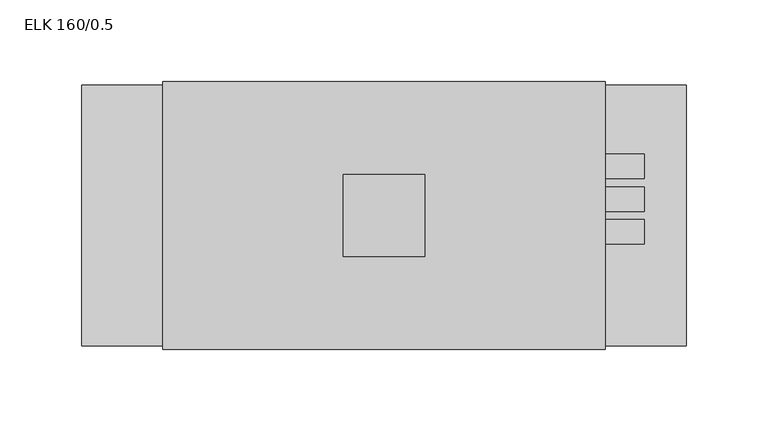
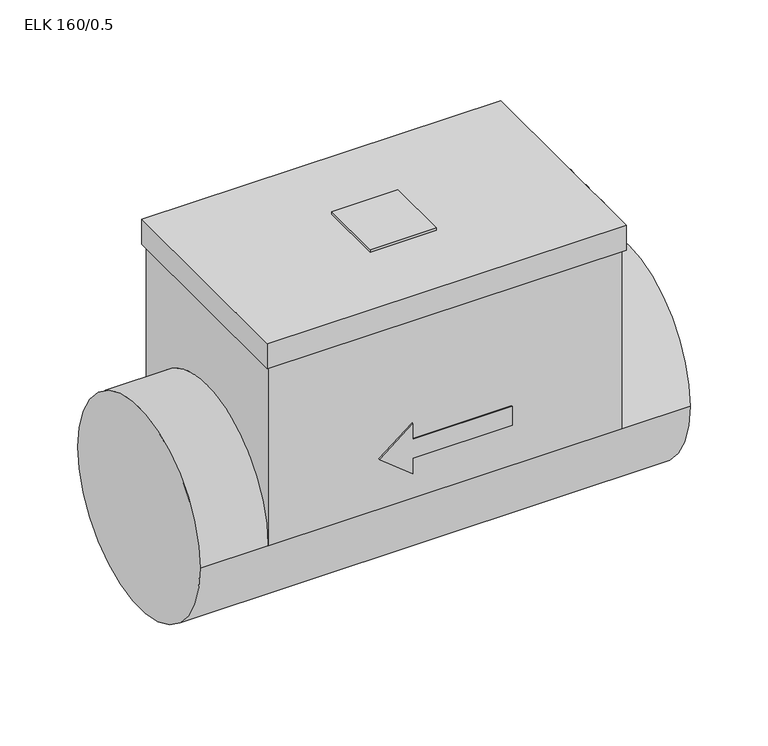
"""IFC4 building model written with IfcOpenShell, lengths in millimetres: proxy geometry, KORF_Нагреватель_Электрический_Круглый_ELK : ELK 160/0.5."""

from ifc_helpers import new_model, si_unit, point, frame, frame_2d, origin, place, context, project, spatial, polyline, circle_curve, trimmed, segment, composite_curve, outline, extrude, source, transform, mapped, element, save
from ifc_brep_helpers import plane_surface, cylinder_surface, advanced_brep


def elk_160_0_5_c7671d57(model_context):
    return source(origin(), model_context, "Body", "SolidModel", [
        extrude(outline(polyline([(210.0, 25.0), (210.0, -25.0), (160.0, -25.0), (160.0, 25.0), (210.0, 25.0)])), frame((0.0, 0.0, 163.0), z_axis=(0.0, 0.0, 1.0), x_axis=(1.0, 0.0, 0.0)), (0.0, 0.0, 1.0), 2.0),
        extrude(outline(composite_curve([segment(trimmed(circle_curve(frame_2d((-10.0, 123.0)), 7.5), [point((-17.5, 123.0))], [point((-2.5, 123.0))], False, "CARTESIAN"), True, "CONTINUOUS"), segment(trimmed(circle_curve(frame_2d((-10.0, 123.0)), 7.5), [point((-2.5, 123.0))], [point((-17.5, 123.0))], False, "CARTESIAN"), True, "CONTINUOUS")], self_intersect=False)), frame((318.5, 0.0, 0.0), z_axis=(1.0, 0.0, 0.0), x_axis=(0.0, 1.0, 0.0)), (0.0, 0.0, 1.0), 25.75),
        extrude(outline(composite_curve([segment(trimmed(circle_curve(frame_2d((10.0, 123.0)), 7.5), [point((2.5, 123.0))], [point((17.5, 123.0))], False, "CARTESIAN"), True, "CONTINUOUS"), segment(trimmed(circle_curve(frame_2d((10.0, 123.0)), 7.5), [point((17.5, 123.0))], [point((2.5, 123.0))], False, "CARTESIAN"), True, "CONTINUOUS")], self_intersect=False)), frame((318.5, 0.0, 0.0), z_axis=(1.0, 0.0, 0.0), x_axis=(0.0, 1.0, 0.0)), (0.0, 0.0, 1.0), 25.75),
        extrude(outline(composite_curve([segment(trimmed(circle_curve(frame_2d((30.0, 123.0)), 7.5), [point((22.5, 123.0))], [point((37.5, 123.0))], False, "CARTESIAN"), True, "CONTINUOUS"), segment(trimmed(circle_curve(frame_2d((30.0, 123.0)), 7.5), [point((37.5, 123.0))], [point((22.5, 123.0))], False, "CARTESIAN"), True, "CONTINUOUS")], self_intersect=False)), frame((318.5, 0.0, 0.0), z_axis=(1.0, 0.0, 0.0), x_axis=(0.0, 1.0, 0.0)), (0.0, 0.0, 1.0), 25.75),
        advanced_brep(
        [(320.5, 82.0, 143.0), (320.5, -82.0, 143.0), (49.5, -82.0, 143.0), (49.5, 82.0, 143.0), (318.5, 80.0, 143.0), (51.5, 80.0, 143.0), (51.5, -80.0, 143.0), (318.5, -80.0, 143.0), (320.5, 82.0, 163.0), (49.5, 82.0, 163.0), (49.5, -82.0, 163.0), (320.5, -82.0, 163.0), (318.5, 80.0, 0.0), (51.5, 80.0, 0.0), (160.0, 80.0, 60.0), (135.0, 80.0, 40.0), (160.0, 80.0, 20.0), (160.0, 80.0, 32.5), (235.0, 80.0, 32.5), (235.0, 80.0, 47.5), (160.0, 80.0, 47.5), (51.5, -80.0, 0.0), (318.5, -80.0, 0.0), (135.0, -80.0, 40.0), (160.0, -80.0, 60.0), (160.0, -80.0, 47.5), (235.0, -80.0, 47.5), (235.0, -80.0, 32.5), (160.0, -80.0, 32.5), (160.0, -80.0, 20.0), (370.0, -80.0, 0.0), (370.0, 80.0, 0.0), (0.0, -80.0, 0.0), (0.0, 80.0, 0.0), (160.0, -81.0, 60.0), (135.0, -81.0, 40.0), (160.0, -81.0, 20.0), (160.0, -81.0, 32.5), (235.0, -81.0, 32.5), (235.0, -81.0, 47.5), (160.0, -81.0, 47.5), (160.0, 81.0, 60.0), (160.0, 81.0, 47.5), (235.0, 81.0, 47.5), (235.0, 81.0, 32.5), (160.0, 81.0, 32.5), (160.0, 81.0, 20.0), (135.0, 81.0, 40.0)],
        [
            (0, 1),
            (1, 2),
            (2, 3),
            (3, 0),
            (4, 5),
            (5, 6),
            (6, 7),
            (7, 4),
            (8, 9),
            (9, 10),
            (10, 11),
            (11, 8),
            (3, 9),
            (8, 0),
            (2, 10),
            (1, 11),
            (4, 12),
            (12, 13),
            (13, 5),
            (14, 15),
            (15, 16),
            (16, 17),
            (17, 18),
            (18, 19),
            (19, 20),
            (20, 14),
            (13, 21, circle_curve(frame((51.5, 0.0, 0.0), z_axis=(1.0, 0.0, 0.0), x_axis=(0.0, 1.0, 0.0)), 80.0)),
            (21, 6),
            (21, 22),
            (22, 7),
            (23, 24),
            (24, 25),
            (25, 26),
            (26, 27),
            (27, 28),
            (28, 29),
            (29, 23),
            (22, 12, circle_curve(frame((318.5, 0.0, 0.0), z_axis=(-1.0, 0.0, 0.0), x_axis=(0.0, 1.0, 0.0)), 80.0)),
            (30, 31, circle_curve(frame((370.0, 0.0, 0.0), z_axis=(1.0, 0.0, 0.0), x_axis=(0.0, 1.0, 0.0)), 80.0)),
            (31, 30, circle_curve(frame((370.0, 0.0, 0.0), z_axis=(1.0, 0.0, 0.0), x_axis=(0.0, 1.0, 0.0)), 80.0)),
            (32, 33, circle_curve(frame((0.0, 0.0, 0.0), z_axis=(-1.0, 0.0, 0.0), x_axis=(0.0, 1.0, 0.0)), 80.0)),
            (33, 32, circle_curve(frame((0.0, 0.0, 0.0), z_axis=(-1.0, 0.0, 0.0), x_axis=(0.0, 1.0, 0.0)), 80.0)),
            (30, 22),
            (21, 32),
            (33, 13),
            (12, 31),
            (34, 35),
            (35, 36),
            (36, 37),
            (37, 38),
            (38, 39),
            (39, 40),
            (40, 34),
            (41, 42),
            (42, 43),
            (43, 44),
            (44, 45),
            (45, 46),
            (46, 47),
            (47, 41),
            (34, 24),
            (23, 35),
            (47, 15),
            (14, 41),
            (29, 36),
            (46, 16),
            (28, 37),
            (45, 17),
            (27, 38),
            (44, 18),
            (26, 39),
            (43, 19),
            (25, 40),
            (42, 20),
        ],
        [
            plane_surface(frame((49.5, 82.0, 143.0), z_axis=(0.0, 0.0, -1.0), x_axis=(1.0, 0.0, 0.0))),
            plane_surface(frame((49.5, 82.0, 163.0), z_axis=(0.0, 0.0, 1.0), x_axis=(-1.0, 0.0, 0.0))),
            plane_surface(frame((320.5, 82.0, 163.0), z_axis=(0.0, 1.0, 0.0), x_axis=(0.0, 0.0, -1.0))),
            plane_surface(frame((49.5, 82.0, 163.0), z_axis=(-1.0, 0.0, 0.0), x_axis=(0.0, 0.0, -1.0))),
            plane_surface(frame((49.5, -82.0, 163.0), z_axis=(0.0, -1.0, 0.0), x_axis=(0.0, 0.0, -1.0))),
            plane_surface(frame((320.5, -82.0, 163.0), z_axis=(1.0, 0.0, 0.0), x_axis=(0.0, 0.0, -1.0))),
            plane_surface(frame((318.5, 80.0, 163.0), z_axis=(0.0, 1.0, 0.0), x_axis=(0.0, 0.0, -1.0))),
            plane_surface(frame((51.5, 80.0, 163.0), z_axis=(-1.0, 0.0, 0.0), x_axis=(0.0, 0.0, -1.0))),
            plane_surface(frame((51.5, -80.0, 163.0), z_axis=(0.0, -1.0, 0.0), x_axis=(0.0, 0.0, -1.0))),
            plane_surface(frame((318.5, -80.0, 163.0), z_axis=(1.0, 0.0, 0.0), x_axis=(0.0, 0.0, -1.0))),
            plane_surface(frame((370.0, 80.0, 0.0), z_axis=(1.0, 0.0, 0.0), x_axis=(0.0, 0.0, 1.0))),
            plane_surface(frame((0.0, 80.0, 0.0), z_axis=(-1.0, 0.0, 0.0), x_axis=(0.0, 0.0, -1.0))),
            cylinder_surface(frame((0.0, 0.0, 0.0), z_axis=(1.0, 0.0, 0.0), x_axis=(0.0, 1.0, 0.0)), 80.0),
            plane_surface(frame((135.0, -81.0, 40.0), z_axis=(0.0, -1.0, 0.0), x_axis=(-0.7808688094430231, 0.0, -0.6246950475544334))),
            plane_surface(frame((135.0, 81.0, 40.0), z_axis=(0.0, 1.0, 0.0), x_axis=(0.7808688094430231, 0.0, 0.6246950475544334))),
            plane_surface(frame((160.0, -81.0, 60.0), z_axis=(-0.6246950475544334, 0.0, 0.7808688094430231), x_axis=(0.0, 1.0, 0.0))),
            plane_surface(frame((135.0, -81.0, 40.0), z_axis=(-0.6246950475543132, 0.0, -0.7808688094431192), x_axis=(0.0, 1.0, 0.0))),
            plane_surface(frame((160.0, -81.0, 20.0), z_axis=(1.0, 0.0, 0.0), x_axis=(0.0, 1.0, 0.0))),
            plane_surface(frame((160.0, -81.0, 32.5), z_axis=(0.0, 0.0, -1.0), x_axis=(0.0, 1.0, 0.0))),
            plane_surface(frame((235.0, -81.0, 32.5), z_axis=(1.0, 0.0, 0.0), x_axis=(0.0, 1.0, 0.0))),
            plane_surface(frame((235.0, -81.0, 47.5), z_axis=(0.0, 0.0, 1.0), x_axis=(0.0, 1.0, 0.0))),
            plane_surface(frame((160.0, -81.0, 47.5), z_axis=(1.0, 0.0, 0.0), x_axis=(0.0, 1.0, 0.0))),
        ],
        [
            (0, [[1, 2, 3, 4], [5, 6, 7, 8]]),
            (1, [[9, 10, 11, 12]]),
            (2, [[-4, 13, -9, 14]]),
            (3, [[-3, 15, -10, -13]]),
            (4, [[-2, 16, -11, -15]]),
            (5, [[-1, -14, -12, -16]]),
            (6, [[17, 18, 19, -5], [20, 21, 22, 23, 24, 25, 26]]),
            (7, [[-19, 27, 28, -6]]),
            (8, [[-28, 29, 30, -7], [31, 32, 33, 34, 35, 36, 37]]),
            (9, [[-17, -8, -30, 38]]),
            (10, [[39, 40]]),
            (11, [[41, 42]]),
            (12, [[-39, 43, -29, 44, -42, 45, -18, 46]]),
            (12, [[-40, -46, -38, -43]]),
            (12, [[-41, -44, -27, -45]]),
            (13, [[47, 48, 49, 50, 51, 52, 53]]),
            (14, [[54, 55, 56, 57, 58, 59, 60]]),
            (15, [[-47, 61, -31, 62]]),
            (15, [[-60, 63, -20, 64]]),
            (16, [[-48, -62, -37, 65]]),
            (16, [[-59, 66, -21, -63]]),
            (17, [[-49, -65, -36, 67]]),
            (17, [[-58, 68, -22, -66]]),
            (18, [[-50, -67, -35, 69]]),
            (18, [[-57, 70, -23, -68]]),
            (19, [[-51, -69, -34, 71]]),
            (19, [[-56, 72, -24, -70]]),
            (20, [[-52, -71, -33, 73]]),
            (20, [[-55, 74, -25, -72]]),
            (21, [[-53, -73, -32, -61]]),
            (21, [[-54, -64, -26, -74]]),
        ],
    ),
    ])


if __name__ == "__main__":
    model = new_model("IFC4")
    model_context = context("Model", 3, world=origin())
    ifc_project = project(units=[si_unit("LENGTHUNIT", "METRE", prefix="MILLI")], contexts=[model_context])
    site = spatial("IfcSite", under=ifc_project)
    building = spatial("IfcBuilding", under=site)
    placement = place(None, origin())
    elk_160_0_5_shape = elk_160_0_5_c7671d57(model_context)
    element("IfcBuildingElementProxy", 1, Name="KORF_Нагреватель_Электрический_Круглый_ELK : ELK 160/0.5", ObjectType="KORF_Нагреватель_Электрический_Круглый_ELK : ELK 160/0.5", at=placement, inside=building, context=model_context, shape_type="MappedRepresentation", body=[
        mapped(elk_160_0_5_shape, transform((0.0, 0.0, 0.0), x_axis=(1.0, 0.0, 0.0), y_axis=(0.0, 1.0, 0.0), z_axis=(0.0, 0.0, 1.0))),
    ])
    save(model, "model.ifc")
